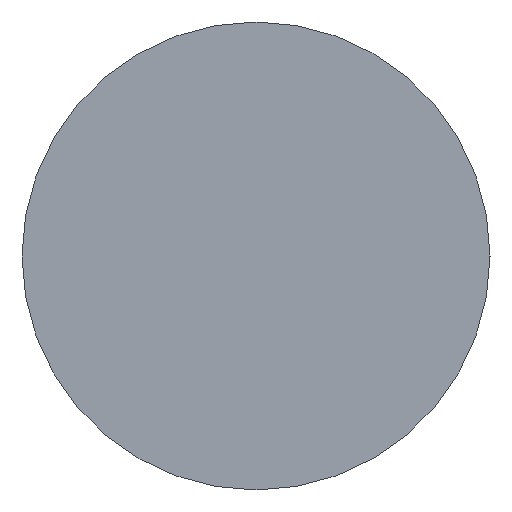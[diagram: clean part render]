
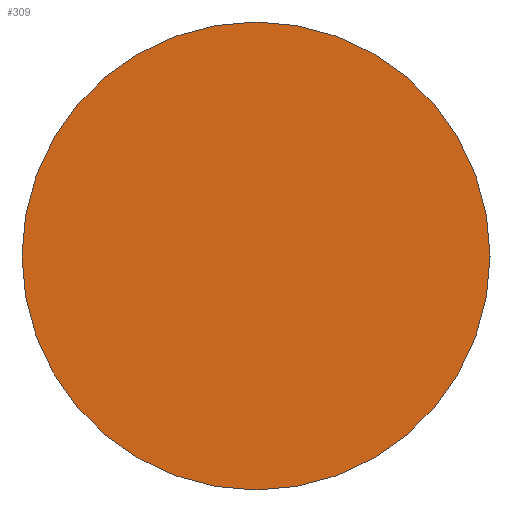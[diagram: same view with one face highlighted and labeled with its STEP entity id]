
A CAD part, left-side view. The second image highlights one B-rep face of the part: STEP entity #309.
In plain terms, the highlighted planar face has unit normal (-1, 0, 0).
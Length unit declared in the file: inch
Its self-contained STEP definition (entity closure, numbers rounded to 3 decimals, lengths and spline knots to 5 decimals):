
#3 = ORIENTED_EDGE ( 'NONE', *, *, #424, .T. ) ;
#23 = DIRECTION ( 'NONE',  ( 1., 0., 0. ) ) ;
#43 = DIRECTION ( 'NONE',  ( 0., 0., 1. ) ) ;
#72 = DIRECTION ( 'NONE',  ( 0., 0., -1. ) ) ;
#99 = CIRCLE ( 'NONE', #320, 0.375 ) ;
#114 = FACE_OUTER_BOUND ( 'NONE', #573, .T. ) ;
#131 = DIRECTION ( 'NONE',  ( -1., 0., 0. ) ) ;
#142 = CARTESIAN_POINT ( 'NONE',  ( -6., 0., 0. ) ) ;
#147 = CIRCLE ( 'NONE', #304, 0.375 ) ;
#165 = CARTESIAN_POINT ( 'NONE',  ( -6., 0., 0.375 ) ) ;
#211 = PLANE ( 'NONE',  #454 ) ;
#261 = DIRECTION ( 'NONE',  ( -1., 0., 0. ) ) ;
#265 = EDGE_CURVE ( 'NONE', #570, #469, #147, .T. ) ;
#304 = AXIS2_PLACEMENT_3D ( 'NONE', #372, #131, #43 ) ;
#309 = ADVANCED_FACE ( 'NONE', ( #114 ), #211, .F. ) ;
#320 = AXIS2_PLACEMENT_3D ( 'NONE', #142, #261, #352 ) ;
#352 = DIRECTION ( 'NONE',  ( 0., 0., 1. ) ) ;
#372 = CARTESIAN_POINT ( 'NONE',  ( -6., 0., 0. ) ) ;
#424 = EDGE_CURVE ( 'NONE', #469, #570, #99, .T. ) ;
#454 = AXIS2_PLACEMENT_3D ( 'NONE', #538, #23, #72 ) ;
#469 = VERTEX_POINT ( 'NONE', #561 ) ;
#538 = CARTESIAN_POINT ( 'NONE',  ( -6., 0.375, 0. ) ) ;
#561 = CARTESIAN_POINT ( 'NONE',  ( -6., 0., -0.375 ) ) ;
#570 = VERTEX_POINT ( 'NONE', #165 ) ;
#573 = EDGE_LOOP ( 'NONE', ( #616, #3 ) ) ;
#616 = ORIENTED_EDGE ( 'NONE', *, *, #265, .T. ) ;
